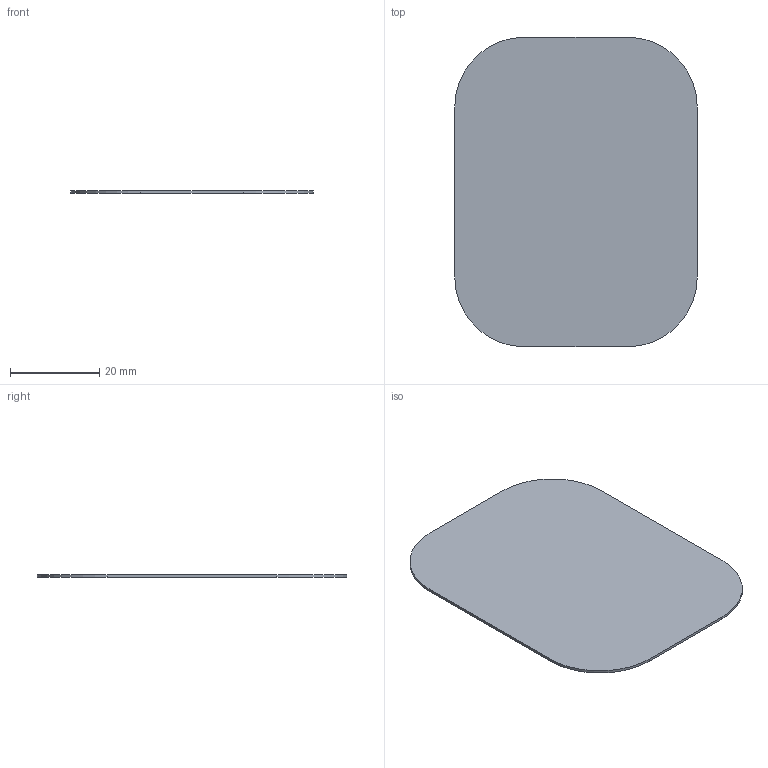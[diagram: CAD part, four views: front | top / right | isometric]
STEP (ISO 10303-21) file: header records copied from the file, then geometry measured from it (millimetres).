
FILE_DESCRIPTION(('Open CASCADE Model'),'2;1');
FILE_NAME('Open CASCADE Shape Model','2026-09-06T11:30:36',('Author'),( 'Open CASCADE'),'Open CASCADE STEP processor 7.7','Open CASCADE 7.7' ,'Unknown');
FILE_SCHEMA(('AUTOMOTIVE_DESIGN { 1 0 10303 214 1 1 1 1 }'));
Length unit declared in the file: millimetre
Products named in the file (1): Open CASCADE STEP translator 7.7 9
Bounding box: 54.2 x 69.2 x 0.6 mm (x, y, z)
Volume: 2125 mm3; surface area: 7215.5 mm2
Topology: 1 solids, 1 shells, 10 faces, 24 edges, 16 vertices
Faces by surface type: plane 6, cylinder 4
Entity records: 630 total; most frequent: CARTESIAN_POINT 123, DIRECTION 98, LINE 56, VECTOR 56, ORIENTED_EDGE 48, PCURVE 48, DEFINITIONAL_REPRESENTATION 48, EDGE_CURVE 24
